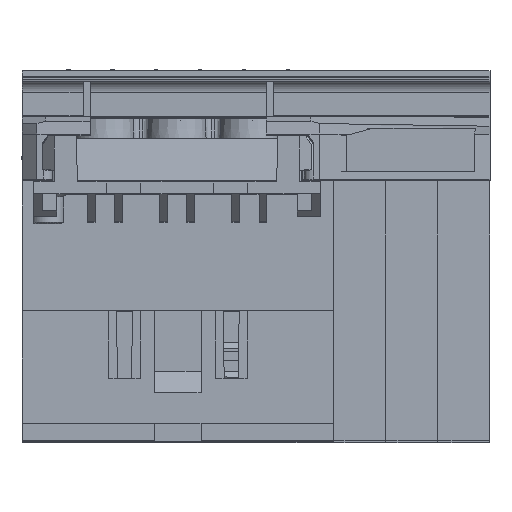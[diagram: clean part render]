
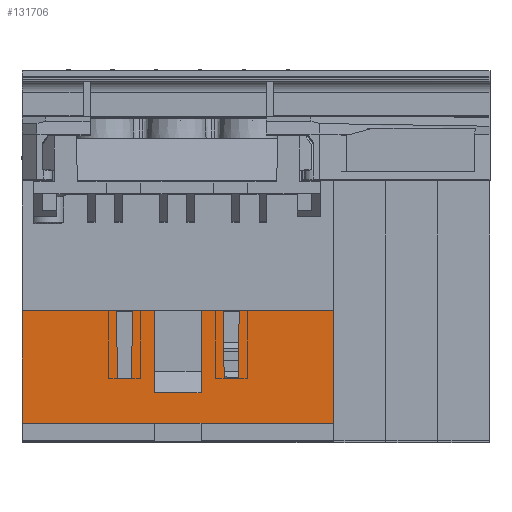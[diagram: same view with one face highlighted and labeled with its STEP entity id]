
A CAD part, top view. The second image highlights one B-rep face of the part: STEP entity #131706.
In plain terms, the highlighted planar face has unit normal (0, -0.009, 1).
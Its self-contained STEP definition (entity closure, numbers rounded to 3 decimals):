
#1481 = DIRECTION ( 'NONE',  ( -1., 0., 0. ) ) ;
#3098 = VERTEX_POINT ( 'NONE', #51104 ) ;
#3771 = DIRECTION ( 'NONE',  ( 1., 0., 0. ) ) ;
#4560 = DIRECTION ( 'NONE',  ( -1., 0., 0. ) ) ;
#5278 = VECTOR ( 'NONE', #188910, 1000. ) ;
#5958 = ORIENTED_EDGE ( 'NONE', *, *, #136975, .T. ) ;
#7826 = VERTEX_POINT ( 'NONE', #62023 ) ;
#8553 = ORIENTED_EDGE ( 'NONE', *, *, #36001, .F. ) ;
#8599 = DIRECTION ( 'NONE',  ( 1., 0., 0. ) ) ;
#9878 = DIRECTION ( 'NONE',  ( 0., 1., 0.009 ) ) ;
#10345 = CARTESIAN_POINT ( 'NONE',  ( 8., -15.7, 199.902 ) ) ;
#13298 = EDGE_CURVE ( 'NONE', #51011, #15850, #36869, .T. ) ;
#13551 = VECTOR ( 'NONE', #168729, 1000. ) ;
#13734 = EDGE_LOOP ( 'NONE', ( #45523, #5958, #152292, #24694, #104151, #106263, #172774, #116807, #137423, #73376, #161212, #67104, #136164, #69240, #8553, #34250, #58987, #27580 ) ) ;
#15850 = VERTEX_POINT ( 'NONE', #33629 ) ;
#15983 = VERTEX_POINT ( 'NONE', #16142 ) ;
#16142 = CARTESIAN_POINT ( 'NONE',  ( 27., -23.5, 199.833 ) ) ;
#17204 = VECTOR ( 'NONE', #155429, 1000. ) ;
#17242 = LINE ( 'NONE', #160921, #133504 ) ;
#19744 = LINE ( 'NONE', #89466, #170102 ) ;
#20959 = VECTOR ( 'NONE', #9878, 1000. ) ;
#22240 = CARTESIAN_POINT ( 'NONE',  ( 4.303, 16.2, 200.18 ) ) ;
#22363 = EDGE_CURVE ( 'NONE', #73756, #143971, #115071, .T. ) ;
#23109 = CARTESIAN_POINT ( 'NONE',  ( -26., 18.5, 200.2 ) ) ;
#24694 = ORIENTED_EDGE ( 'NONE', *, *, #65193, .T. ) ;
#25161 = CARTESIAN_POINT ( 'NONE',  ( -26., -4., 200.004 ) ) ;
#27086 = VERTEX_POINT ( 'NONE', #154443 ) ;
#27580 = ORIENTED_EDGE ( 'NONE', *, *, #22363, .T. ) ;
#28098 = VERTEX_POINT ( 'NONE', #74302 ) ;
#32993 = VERTEX_POINT ( 'NONE', #45192 ) ;
#33242 = CARTESIAN_POINT ( 'NONE',  ( -26., -15.7, 199.902 ) ) ;
#33287 = LINE ( 'NONE', #51664, #17204 ) ;
#33629 = CARTESIAN_POINT ( 'NONE',  ( 10.5, -15.7, 199.902 ) ) ;
#34250 = ORIENTED_EDGE ( 'NONE', *, *, #172941, .T. ) ;
#35281 = VECTOR ( 'NONE', #3771, 1000. ) ;
#36001 = EDGE_CURVE ( 'NONE', #27086, #132006, #17242, .T. ) ;
#36869 = LINE ( 'NONE', #113001, #123532 ) ;
#39728 = DIRECTION ( 'NONE',  ( -0.009, -1., -0.009 ) ) ;
#43249 = LINE ( 'NONE', #33242, #172996 ) ;
#44996 = LINE ( 'NONE', #25161, #65481 ) ;
#45192 = CARTESIAN_POINT ( 'NONE',  ( -27., -4., 200.004 ) ) ;
#45523 = ORIENTED_EDGE ( 'NONE', *, *, #46810, .F. ) ;
#46105 = CARTESIAN_POINT ( 'NONE',  ( -26., -15.7, 199.902 ) ) ;
#46810 = EDGE_CURVE ( 'NONE', #32993, #143971, #64207, .T. ) ;
#49720 = VECTOR ( 'NONE', #166801, 1000. ) ;
#51011 = VERTEX_POINT ( 'NONE', #146026 ) ;
#51104 = CARTESIAN_POINT ( 'NONE',  ( 27., -4., 200.004 ) ) ;
#51190 = PLANE ( 'NONE',  #121969 ) ;
#51664 = CARTESIAN_POINT ( 'NONE',  ( -26., -23.5, 199.833 ) ) ;
#52877 = VERTEX_POINT ( 'NONE', #156146 ) ;
#52917 = CARTESIAN_POINT ( 'NONE',  ( 4.127, -4., 200.004 ) ) ;
#57792 = EDGE_CURVE ( 'NONE', #96025, #52877, #88391, .T. ) ;
#58987 = ORIENTED_EDGE ( 'NONE', *, *, #76544, .T. ) ;
#60842 = EDGE_CURVE ( 'NONE', #69769, #28098, #112797, .T. ) ;
#60860 = DIRECTION ( 'NONE',  ( 0., -1., -0.009 ) ) ;
#62023 = CARTESIAN_POINT ( 'NONE',  ( 4., -23.5, 199.833 ) ) ;
#64207 = LINE ( 'NONE', #95237, #143915 ) ;
#65193 = EDGE_CURVE ( 'NONE', #28098, #7826, #97957, .T. ) ;
#65481 = VECTOR ( 'NONE', #111185, 1000. ) ;
#65631 = CARTESIAN_POINT ( 'NONE',  ( 8., -15.7, 199.902 ) ) ;
#67104 = ORIENTED_EDGE ( 'NONE', *, *, #57792, .T. ) ;
#67819 = CARTESIAN_POINT ( 'NONE',  ( 27., 18.5, 200.2 ) ) ;
#69240 = ORIENTED_EDGE ( 'NONE', *, *, #158174, .T. ) ;
#69769 = VERTEX_POINT ( 'NONE', #182972 ) ;
#70098 = VECTOR ( 'NONE', #121548, 1000. ) ;
#73376 = ORIENTED_EDGE ( 'NONE', *, *, #83848, .T. ) ;
#73756 = VERTEX_POINT ( 'NONE', #101435 ) ;
#74196 = CARTESIAN_POINT ( 'NONE',  ( 7.898, -4., 200.004 ) ) ;
#74302 = CARTESIAN_POINT ( 'NONE',  ( -4., -23.5, 199.833 ) ) ;
#74873 = CARTESIAN_POINT ( 'NONE',  ( -26., -18.18, 199.88 ) ) ;
#75685 = LINE ( 'NONE', #135307, #187332 ) ;
#75840 = EDGE_CURVE ( 'NONE', #52877, #125749, #105634, .T. ) ;
#76274 = VECTOR ( 'NONE', #159222, 1000. ) ;
#76544 = EDGE_CURVE ( 'NONE', #131052, #73756, #43249, .T. ) ;
#83848 = EDGE_CURVE ( 'NONE', #137864, #150455, #161819, .T. ) ;
#88391 = LINE ( 'NONE', #22240, #49720 ) ;
#89466 = CARTESIAN_POINT ( 'NONE',  ( -27., 18.5, 200.2 ) ) ;
#94622 = VECTOR ( 'NONE', #114210, 1000. ) ;
#94706 = CARTESIAN_POINT ( 'NONE',  ( -10.602, -4., 200.004 ) ) ;
#95237 = CARTESIAN_POINT ( 'NONE',  ( -26., -4., 200.004 ) ) ;
#95335 = EDGE_CURVE ( 'NONE', #51011, #3098, #169888, .T. ) ;
#96025 = VERTEX_POINT ( 'NONE', #52917 ) ;
#97957 = LINE ( 'NONE', #126751, #13551 ) ;
#99583 = EDGE_CURVE ( 'NONE', #15983, #3098, #155480, .T. ) ;
#101435 = CARTESIAN_POINT ( 'NONE',  ( -10.5, -15.7, 199.902 ) ) ;
#101888 = CARTESIAN_POINT ( 'NONE',  ( -10.5, -15.7, 199.902 ) ) ;
#104151 = ORIENTED_EDGE ( 'NONE', *, *, #125351, .T. ) ;
#105634 = LINE ( 'NONE', #74873, #5278 ) ;
#106263 = ORIENTED_EDGE ( 'NONE', *, *, #99583, .T. ) ;
#108861 = LINE ( 'NONE', #123428, #70098 ) ;
#111011 = DIRECTION ( 'NONE',  ( -0.009, 1., 0.009 ) ) ;
#111185 = DIRECTION ( 'NONE',  ( 1., 0., 0. ) ) ;
#112797 = LINE ( 'NONE', #161733, #35281 ) ;
#113001 = CARTESIAN_POINT ( 'NONE',  ( 10.778, 16.2, 200.18 ) ) ;
#114210 = DIRECTION ( 'NONE',  ( 1., 0., 0. ) ) ;
#115071 = LINE ( 'NONE', #101888, #76274 ) ;
#115410 = CARTESIAN_POINT ( 'NONE',  ( -4.003, -18.18, 199.88 ) ) ;
#115998 = VECTOR ( 'NONE', #1481, 1000. ) ;
#116807 = ORIENTED_EDGE ( 'NONE', *, *, #13298, .T. ) ;
#118772 = DIRECTION ( 'NONE',  ( -0.009, -1., -0.009 ) ) ;
#121548 = DIRECTION ( 'NONE',  ( -0.009, 1., 0.009 ) ) ;
#121969 = AXIS2_PLACEMENT_3D ( 'NONE', #23109, #182350, #168284 ) ;
#123428 = CARTESIAN_POINT ( 'NONE',  ( -4.003, -18.18, 199.88 ) ) ;
#123532 = VECTOR ( 'NONE', #39728, 1000. ) ;
#125351 = EDGE_CURVE ( 'NONE', #7826, #15983, #33287, .T. ) ;
#125749 = VERTEX_POINT ( 'NONE', #115410 ) ;
#126751 = CARTESIAN_POINT ( 'NONE',  ( -26., -23.5, 199.833 ) ) ;
#126848 = EDGE_CURVE ( 'NONE', #96025, #150455, #44996, .T. ) ;
#129512 = LINE ( 'NONE', #46105, #115998 ) ;
#131052 = VERTEX_POINT ( 'NONE', #170398 ) ;
#131706 = ADVANCED_FACE ( 'NONE', ( #171506 ), #51190, .T. ) ;
#132006 = VERTEX_POINT ( 'NONE', #158710 ) ;
#132246 = VECTOR ( 'NONE', #111011, 1000. ) ;
#133504 = VECTOR ( 'NONE', #148225, 1000. ) ;
#135307 = CARTESIAN_POINT ( 'NONE',  ( -7.722, 16.2, 200.18 ) ) ;
#136164 = ORIENTED_EDGE ( 'NONE', *, *, #75840, .T. ) ;
#136975 = EDGE_CURVE ( 'NONE', #32993, #69769, #19744, .T. ) ;
#137423 = ORIENTED_EDGE ( 'NONE', *, *, #183102, .T. ) ;
#137864 = VERTEX_POINT ( 'NONE', #65631 ) ;
#143915 = VECTOR ( 'NONE', #8599, 1000. ) ;
#143971 = VERTEX_POINT ( 'NONE', #94706 ) ;
#146026 = CARTESIAN_POINT ( 'NONE',  ( 10.602, -4., 200.004 ) ) ;
#148225 = DIRECTION ( 'NONE',  ( 1., 0., 0. ) ) ;
#150455 = VERTEX_POINT ( 'NONE', #74196 ) ;
#152292 = ORIENTED_EDGE ( 'NONE', *, *, #60842, .T. ) ;
#154443 = CARTESIAN_POINT ( 'NONE',  ( -7.898, -4., 200.004 ) ) ;
#155429 = DIRECTION ( 'NONE',  ( 1., 0., 0. ) ) ;
#155480 = LINE ( 'NONE', #67819, #20959 ) ;
#156146 = CARTESIAN_POINT ( 'NONE',  ( 4.003, -18.18, 199.88 ) ) ;
#158174 = EDGE_CURVE ( 'NONE', #125749, #132006, #108861, .T. ) ;
#158710 = CARTESIAN_POINT ( 'NONE',  ( -4.127, -4., 200.004 ) ) ;
#158733 = CARTESIAN_POINT ( 'NONE',  ( -26., -4., 200.004 ) ) ;
#159222 = DIRECTION ( 'NONE',  ( -0.009, 1., 0.009 ) ) ;
#160921 = CARTESIAN_POINT ( 'NONE',  ( -26., -4., 200.004 ) ) ;
#161212 = ORIENTED_EDGE ( 'NONE', *, *, #126848, .F. ) ;
#161733 = CARTESIAN_POINT ( 'NONE',  ( 4., -23.5, 199.833 ) ) ;
#161819 = LINE ( 'NONE', #10345, #132246 ) ;
#166801 = DIRECTION ( 'NONE',  ( -0.009, -1., -0.009 ) ) ;
#168284 = DIRECTION ( 'NONE',  ( 0., -1., -0.009 ) ) ;
#168729 = DIRECTION ( 'NONE',  ( 1., 0., 0. ) ) ;
#169888 = LINE ( 'NONE', #158733, #94622 ) ;
#170102 = VECTOR ( 'NONE', #60860, 1000. ) ;
#170398 = CARTESIAN_POINT ( 'NONE',  ( -8., -15.7, 199.902 ) ) ;
#171506 = FACE_OUTER_BOUND ( 'NONE', #13734, .T. ) ;
#172774 = ORIENTED_EDGE ( 'NONE', *, *, #95335, .F. ) ;
#172941 = EDGE_CURVE ( 'NONE', #27086, #131052, #75685, .T. ) ;
#172996 = VECTOR ( 'NONE', #4560, 1000. ) ;
#182350 = DIRECTION ( 'NONE',  ( 0., -0.009, 1. ) ) ;
#182972 = CARTESIAN_POINT ( 'NONE',  ( -27., -23.5, 199.833 ) ) ;
#183102 = EDGE_CURVE ( 'NONE', #15850, #137864, #129512, .T. ) ;
#187332 = VECTOR ( 'NONE', #118772, 1000. ) ;
#188910 = DIRECTION ( 'NONE',  ( -1., 0., 0. ) ) ;
